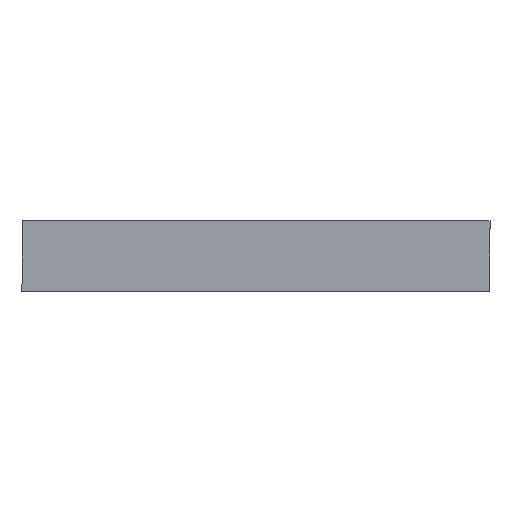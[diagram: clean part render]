
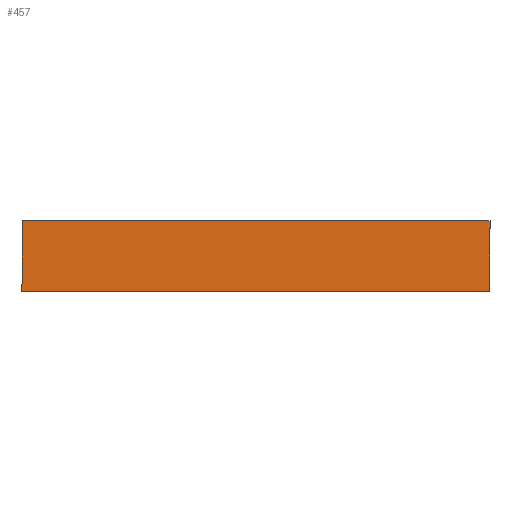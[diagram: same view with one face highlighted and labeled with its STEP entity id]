
A CAD part, left-side view. The second image highlights one B-rep face of the part: STEP entity #457.
In plain terms, the highlighted planar face has unit normal (-1, 0, 0).
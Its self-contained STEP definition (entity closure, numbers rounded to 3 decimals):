
#11 = EDGE_CURVE ( 'NONE', #746, #770, #293, .T. ) ;
#31 = EDGE_CURVE ( 'NONE', #767, #784, #257, .T. ) ;
#58 = AXIS2_PLACEMENT_3D ( 'NONE', #608, #597, #596 ) ;
#70 = EDGE_CURVE ( 'NONE', #767, #746, #193, .T. ) ;
#91 = EDGE_CURVE ( 'NONE', #784, #770, #137, .T. ) ;
#112 = FACE_OUTER_BOUND ( 'NONE', #304, .T. ) ;
#136 = VECTOR ( 'NONE', #638, 1000. ) ;
#137 = LINE ( 'NONE', #639, #136 ) ;
#191 = VECTOR ( 'NONE', #685, 1000. ) ;
#193 = LINE ( 'NONE', #687, #191 ) ;
#252 = VECTOR ( 'NONE', #774, 1000. ) ;
#257 = LINE ( 'NONE', #778, #252 ) ;
#280 = VECTOR ( 'NONE', #816, 1000. ) ;
#293 = LINE ( 'NONE', #821, #280 ) ;
#304 = EDGE_LOOP ( 'NONE', ( #390, #391, #392, #393 ) ) ;
#390 = ORIENTED_EDGE ( 'NONE', *, *, #11, .T. ) ;
#391 = ORIENTED_EDGE ( 'NONE', *, *, #91, .F. ) ;
#392 = ORIENTED_EDGE ( 'NONE', *, *, #31, .F. ) ;
#393 = ORIENTED_EDGE ( 'NONE', *, *, #70, .T. ) ;
#457 = ADVANCED_FACE ( 'NONE', ( #112 ), #609, .F. ) ;
#517 = CARTESIAN_POINT ( 'NONE',  ( -254., 0., 65. ) ) ;
#522 = CARTESIAN_POINT ( 'NONE',  ( -254., 0., 0. ) ) ;
#523 = CARTESIAN_POINT ( 'NONE',  ( -254., 429., 65. ) ) ;
#530 = CARTESIAN_POINT ( 'NONE',  ( -254., 429., 0. ) ) ;
#596 = DIRECTION ( 'NONE',  ( 0., 1., 0. ) ) ;
#597 = DIRECTION ( 'NONE',  ( 1., 0., 0. ) ) ;
#608 = CARTESIAN_POINT ( 'NONE',  ( -254., 0., 65. ) ) ;
#609 = PLANE ( 'NONE',  #58 ) ;
#638 = DIRECTION ( 'NONE',  ( 0., 0., -1. ) ) ;
#639 = CARTESIAN_POINT ( 'NONE',  ( -254., 0., 65. ) ) ;
#685 = DIRECTION ( 'NONE',  ( 0., 0., -1. ) ) ;
#687 = CARTESIAN_POINT ( 'NONE',  ( -254., 429., 65. ) ) ;
#746 = VERTEX_POINT ( 'NONE', #530 ) ;
#767 = VERTEX_POINT ( 'NONE', #523 ) ;
#770 = VERTEX_POINT ( 'NONE', #522 ) ;
#774 = DIRECTION ( 'NONE',  ( 0., -1., 0. ) ) ;
#778 = CARTESIAN_POINT ( 'NONE',  ( -254., 0., 65. ) ) ;
#784 = VERTEX_POINT ( 'NONE', #517 ) ;
#816 = DIRECTION ( 'NONE',  ( 0., -1., 0. ) ) ;
#821 = CARTESIAN_POINT ( 'NONE',  ( -254., 0., 0. ) ) ;
